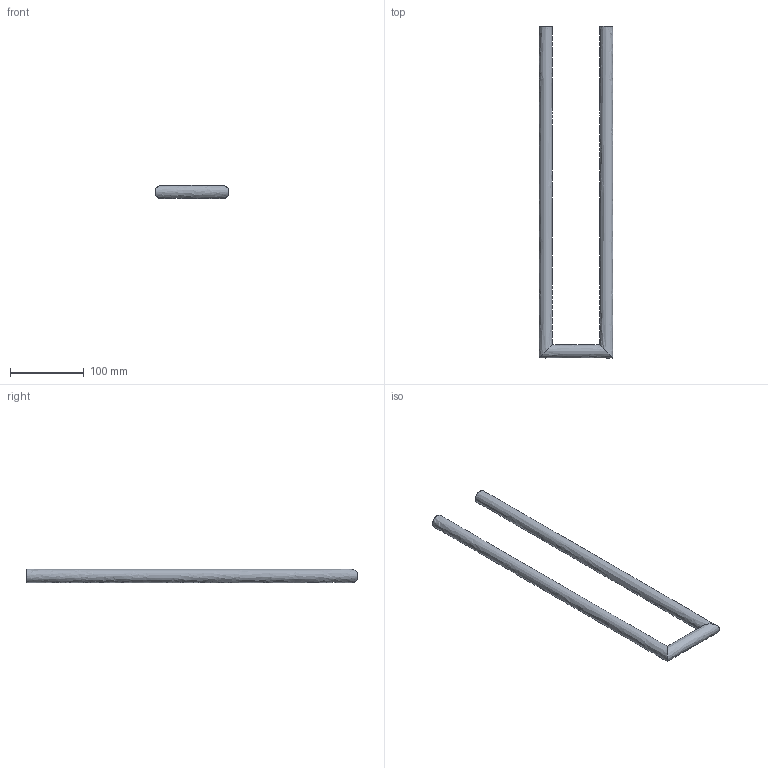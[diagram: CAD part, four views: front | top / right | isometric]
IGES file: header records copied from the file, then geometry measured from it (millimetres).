
Global section: file name: /Users/f/Desktop/II/AM215.igs; native system: Rhinoceros ( Jul 22 2010 ); preprocessor: Trout Lake IGES 012 Jul 22 2010; date: 100802.141953; units: millimetre
Bounding box: 100 x 450 x 18 mm (x, y, z)
Surface area: 55066.4 mm2 (no closed solid volume)
Topology: 0 solids, 0 shells, 5 faces, 179 edges, 178 vertices
Faces by surface type: bspline 5
